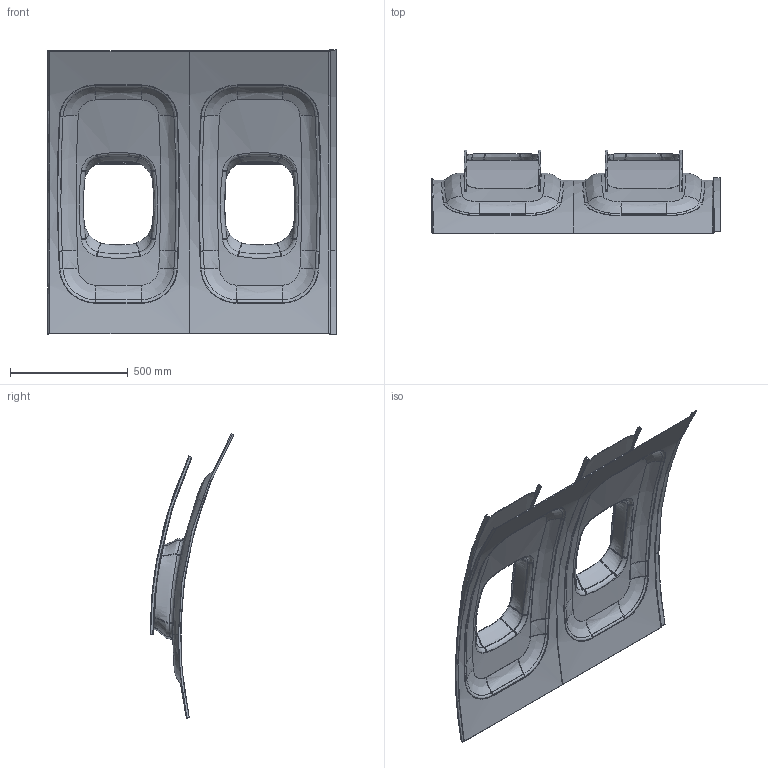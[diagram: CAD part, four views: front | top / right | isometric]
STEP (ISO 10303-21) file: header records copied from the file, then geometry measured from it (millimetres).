
FILE_DESCRIPTION(('Open CASCADE Model'),'2;1');
FILE_NAME('Open CASCADE Shape Model','2026-10-13T10:58:08',('Author'),( 'Open CASCADE'),'Open CASCADE STEP processor 7.8','Open CASCADE 7.8' ,'Unknown');
FILE_SCHEMA(('AUTOMOTIVE_DESIGN { 1 0 10303 214 1 1 1 1 }'));
Length unit declared in the file: millimetre
Products named in the file (12): Tu214_Window_Node_open; Wall_Panel; Window_Reveal_1; Window_Shade_1; Shade_Handle_1; Shade_Guide_1_1; Shade_Guide_1_2; Window_Reveal_2; Window_Shade_2; Shade_Handle_2; Shade_Guide_2_1; Shade_Guide_2_2
Assembly tree (11 placements, depth 2):
  Tu214_Window_Node_open
    Wall_Panel
    Window_Reveal_1
    Window_Shade_1
    Shade_Handle_1
    Shade_Guide_1_1
    Shade_Guide_1_2
    Window_Reveal_2
    Window_Shade_2
    Shade_Handle_2
    Shade_Guide_2_1
    Shade_Guide_2_2
Bounding box: 1225 x 356.72 x 1209.26 mm (x, y, z)
Volume: 5311401.9 mm3; surface area: 3846454.9 mm2
Topology: 11 solids, 11 shells, 562 faces, 1335 edges, 795 vertices
Faces by surface type: bspline 492, cylinder 42, plane 24, torus 4
Entity records: 143998 total; most frequent: CARTESIAN_POINT 128868, ORIENTED_EDGE 2670, B_SPLINE_CURVE_WITH_KNOTS 1486, EDGE_CURVE 1335, PCURVE 1272, DEFINITIONAL_REPRESENTATION 1272, DIRECTION 1132, LINE 958
